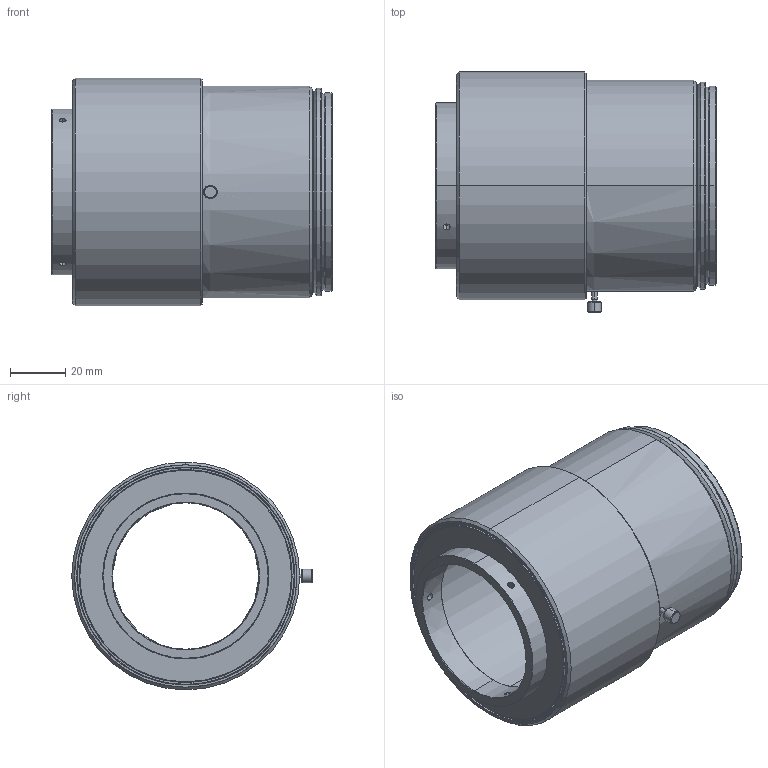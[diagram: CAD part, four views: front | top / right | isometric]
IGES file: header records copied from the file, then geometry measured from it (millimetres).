
Start section: SolidWorks IGES file using analytic representation for surfaces
Global section: file name: C:\Users\tsuji_vst\Documents\【図面】\_3D\00 VST\マウントアダプタ\VS-FR32-53V_M72.IGS; native system: SolidWorks 2017; preprocessor: SolidWorks 2017; author: tsuji_vst; date: 170105.093644; units: millimetre
Bounding box: 101.7 x 87.05 x 82.5 mm (x, y, z)
Surface area: 54473 mm2 (no closed solid volume)
Topology: 0 solids, 0 shells, 98 faces, 2522 edges, 2522 vertices
Faces by surface type: revolution 82, bspline 16
